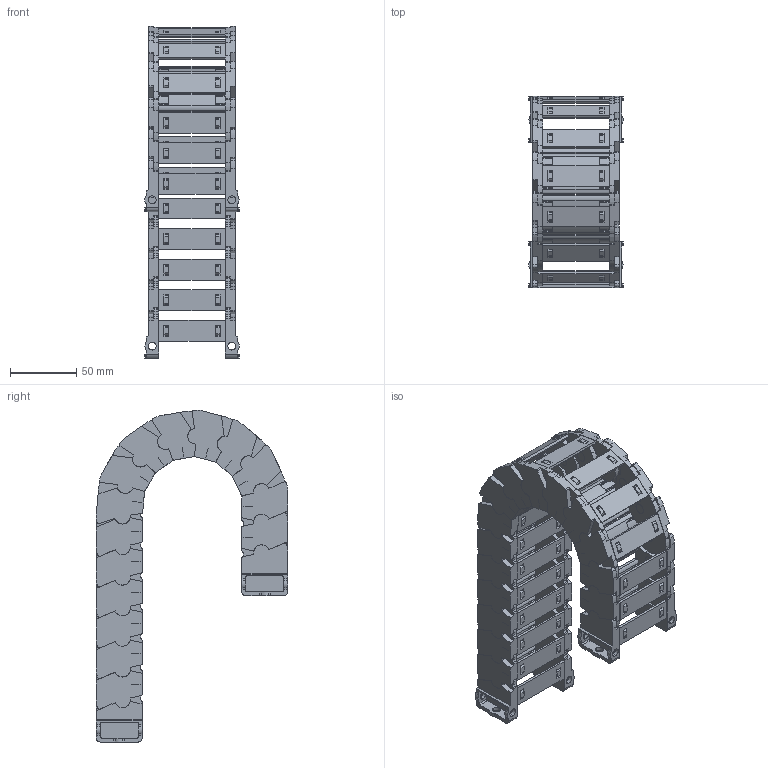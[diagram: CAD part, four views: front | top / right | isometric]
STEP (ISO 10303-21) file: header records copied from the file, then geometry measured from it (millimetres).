
FILE_DESCRIPTION((''),'2;1');
FILE_NAME('JY-25X50-R55_ASM','2022-05-07T10:08:21',('admin'),(''),'CREO PARAMETRIC BY PTC INC, 2021164','CREO PARAMETRIC BY PTC INC, 2021164','');
FILE_SCHEMA(('CONFIG_CONTROL_DESIGN','GEOMETRIC_VALIDATION_PROPERTIES_MIM'));
Length unit declared in the file: millimetre
Products named in the file (11): 25XL-L; 25-35XL-YP; 25XL-R; ASM0001_ASM; 25-LTT-A-L; 25-LTT-A-R; 25XL-LTT-A_ASM; 25-LTT-B-L; 25-LTT-B-R; 25XL-LTT-B_ASM; JY-25X50-R55_ASM
Assembly tree (29 placements, depth 3):
  JY-25X50-R55_ASM
    ASM0001_ASM  x15
      25XL-L
      25-35XL-YP
      25XL-R
    25XL-LTT-A_ASM
      25-LTT-A-L
      25-35XL-YP  x2
      25-LTT-A-R
    25XL-LTT-B_ASM
      25-LTT-B-L
      25-35XL-YP  x2
      25-LTT-B-R
Bounding box: 71.17 x 144.67 x 250.78 mm (x, y, z)
Volume: 276040.2 mm3; surface area: 207531.7 mm2
Topology: 68 solids, 83 shells, 3544 faces, 10581 edges, 7156 vertices
Faces by surface type: plane 2605, cylinder 909, cone 30
Entity records: 24023 total; most frequent: CARTESIAN_POINT 3114, DIRECTION 3009, ORIENTED_EDGE 2962, EDGE_CURVE 1483, PRESENTATION_STYLE_ASSIGNMENT 1413, STYLED_ITEM 1381, VECTOR 1053, LINE 1053
